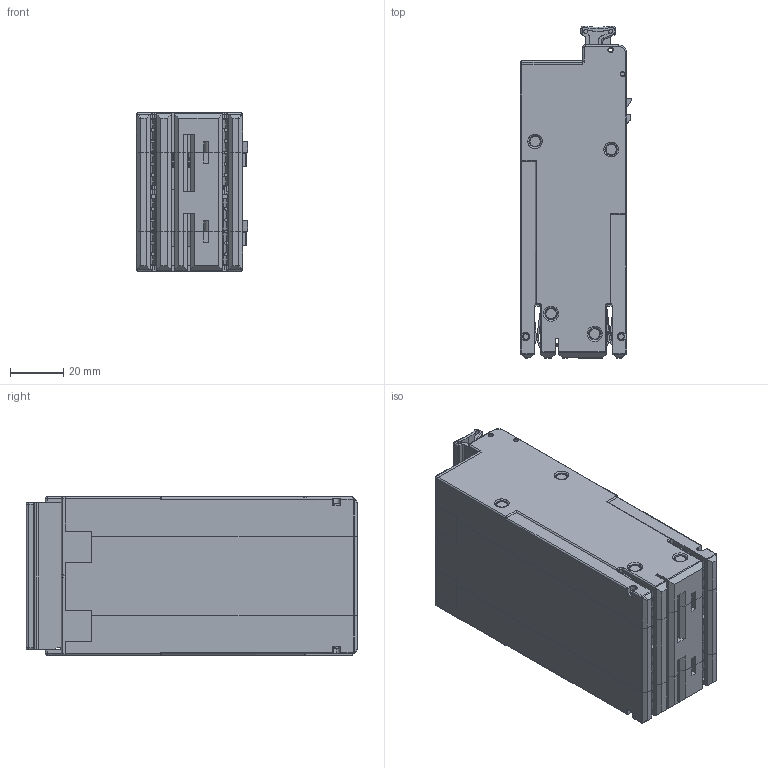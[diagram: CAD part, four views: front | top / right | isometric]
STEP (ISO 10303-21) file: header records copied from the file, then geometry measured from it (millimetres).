
FILE_DESCRIPTION (( 'STEP AP214' ), '1' );
FILE_NAME ('2LD.250.0015.STEP', '2024-07-08T08:31:01', ( '' ), ( '' ), 'SwSTEP 2.0', 'SolidWorks 2018', '' );
FILE_SCHEMA (( 'AUTOMOTIVE_DESIGN' ));
Length unit declared in the file: millimetre
Products named in the file (1): 2LD.250.0015
Bounding box: 41.88 x 125.13 x 59.6 mm (x, y, z)
Volume: 87406.6 mm3; surface area: 133399.8 mm2
Topology: 25 solids, 25 shells, 5460 faces, 15048 edges, 9651 vertices
Faces by surface type: plane 3784, cylinder 1269, cone 168, torus 142, bspline 60, sphere 37
Entity records: 234914 total; most frequent: CARTESIAN_POINT 34669, ORIENTED_EDGE 30042, DIRECTION 28349, EDGE_CURVE 15021, VECTOR 11373, LINE 11373, VERTEX_POINT 9649, AXIS2_PLACEMENT_3D 8488
